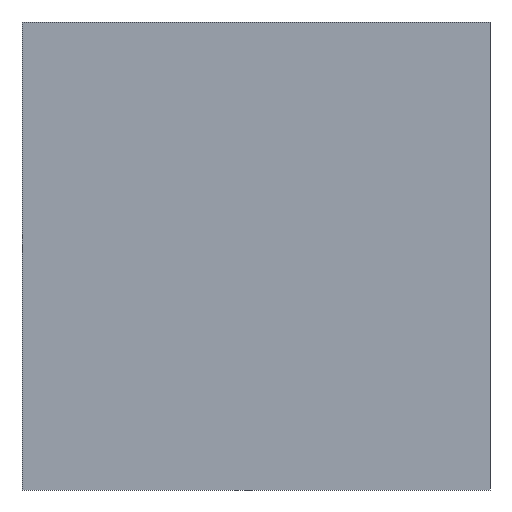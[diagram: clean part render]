
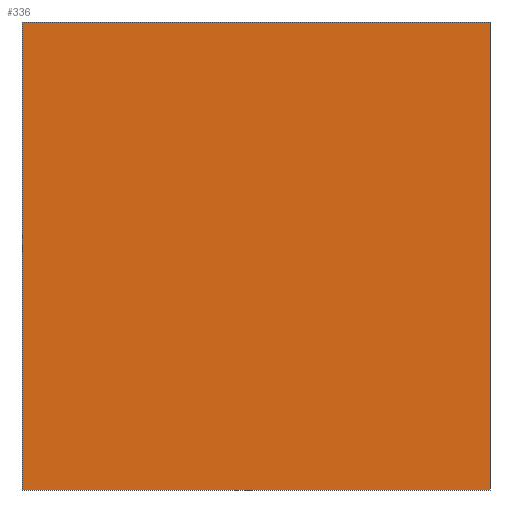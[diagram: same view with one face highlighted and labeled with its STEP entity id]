
A CAD part, front view. The second image highlights one B-rep face of the part: STEP entity #336.
In plain terms, the highlighted planar face has unit normal (0, -1, 0).
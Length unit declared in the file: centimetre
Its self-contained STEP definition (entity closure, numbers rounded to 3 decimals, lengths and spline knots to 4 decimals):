
#1 = CARTESIAN_POINT ( 'NONE',  ( 0., 0., 1000. ) ) ;
#11 = CARTESIAN_POINT ( 'NONE',  ( 1000., 0., 1000. ) ) ;
#21 = CARTESIAN_POINT ( 'NONE',  ( 0., 0., 0. ) ) ;
#23 = CARTESIAN_POINT ( 'NONE',  ( 0., 0., 0. ) ) ;
#42 = VERTEX_POINT ( 'NONE', #372 ) ;
#62 = DIRECTION ( 'NONE',  ( 1., 0., 0. ) ) ;
#79 = EDGE_CURVE ( 'NONE', #339, #42, #157, .T. ) ;
#86 = ORIENTED_EDGE ( 'NONE', *, *, #437, .T. ) ;
#141 = LINE ( 'NONE', #176, #245 ) ;
#157 = LINE ( 'NONE', #271, #218 ) ;
#176 = CARTESIAN_POINT ( 'NONE',  ( 0., 0., 1000. ) ) ;
#204 = EDGE_CURVE ( 'NONE', #216, #452, #445, .T. ) ;
#216 = VERTEX_POINT ( 'NONE', #23 ) ;
#217 = DIRECTION ( 'NONE',  ( 0., 0., -1. ) ) ;
#218 = VECTOR ( 'NONE', #62, 100. ) ;
#224 = ORIENTED_EDGE ( 'NONE', *, *, #79, .F. ) ;
#235 = VECTOR ( 'NONE', #506, 100. ) ;
#245 = VECTOR ( 'NONE', #217, 100. ) ;
#246 = DIRECTION ( 'NONE',  ( 0., 1., 0. ) ) ;
#257 = VECTOR ( 'NONE', #415, 100. ) ;
#271 = CARTESIAN_POINT ( 'NONE',  ( 0., 0., 1000. ) ) ;
#289 = CARTESIAN_POINT ( 'NONE',  ( 0., 0., 1000. ) ) ;
#290 = PLANE ( 'NONE',  #298 ) ;
#298 = AXIS2_PLACEMENT_3D ( 'NONE', #289, #246, #467 ) ;
#336 = ADVANCED_FACE ( 'NONE', ( #386 ), #290, .F. ) ;
#339 = VERTEX_POINT ( 'NONE', #1 ) ;
#372 = CARTESIAN_POINT ( 'NONE',  ( 1000., 0., 1000. ) ) ;
#386 = FACE_OUTER_BOUND ( 'NONE', #399, .T. ) ;
#393 = LINE ( 'NONE', #11, #235 ) ;
#394 = ORIENTED_EDGE ( 'NONE', *, *, #458, .F. ) ;
#399 = EDGE_LOOP ( 'NONE', ( #485, #394, #224, #86 ) ) ;
#415 = DIRECTION ( 'NONE',  ( 1., 0., 0. ) ) ;
#437 = EDGE_CURVE ( 'NONE', #339, #216, #141, .T. ) ;
#445 = LINE ( 'NONE', #21, #257 ) ;
#452 = VERTEX_POINT ( 'NONE', #517 ) ;
#458 = EDGE_CURVE ( 'NONE', #42, #452, #393, .T. ) ;
#467 = DIRECTION ( 'NONE',  ( 0., 0., 1. ) ) ;
#485 = ORIENTED_EDGE ( 'NONE', *, *, #204, .T. ) ;
#506 = DIRECTION ( 'NONE',  ( 0., 0., -1. ) ) ;
#517 = CARTESIAN_POINT ( 'NONE',  ( 1000., 0., 0. ) ) ;
